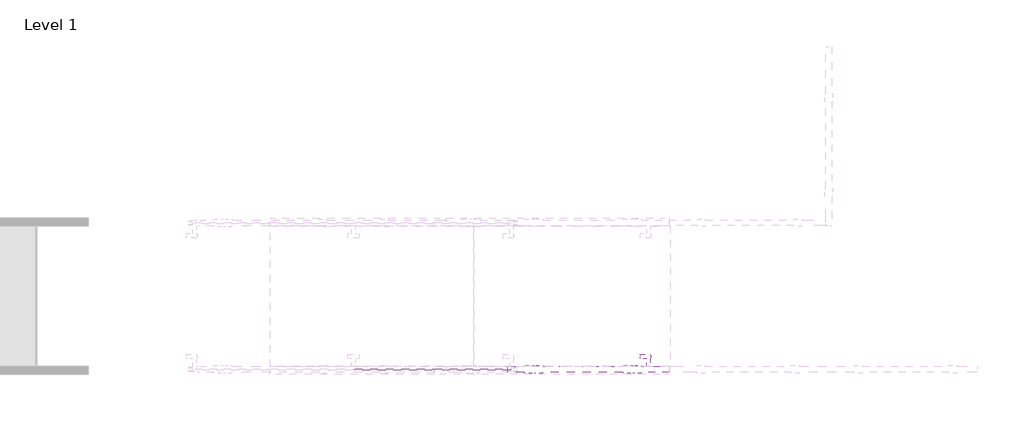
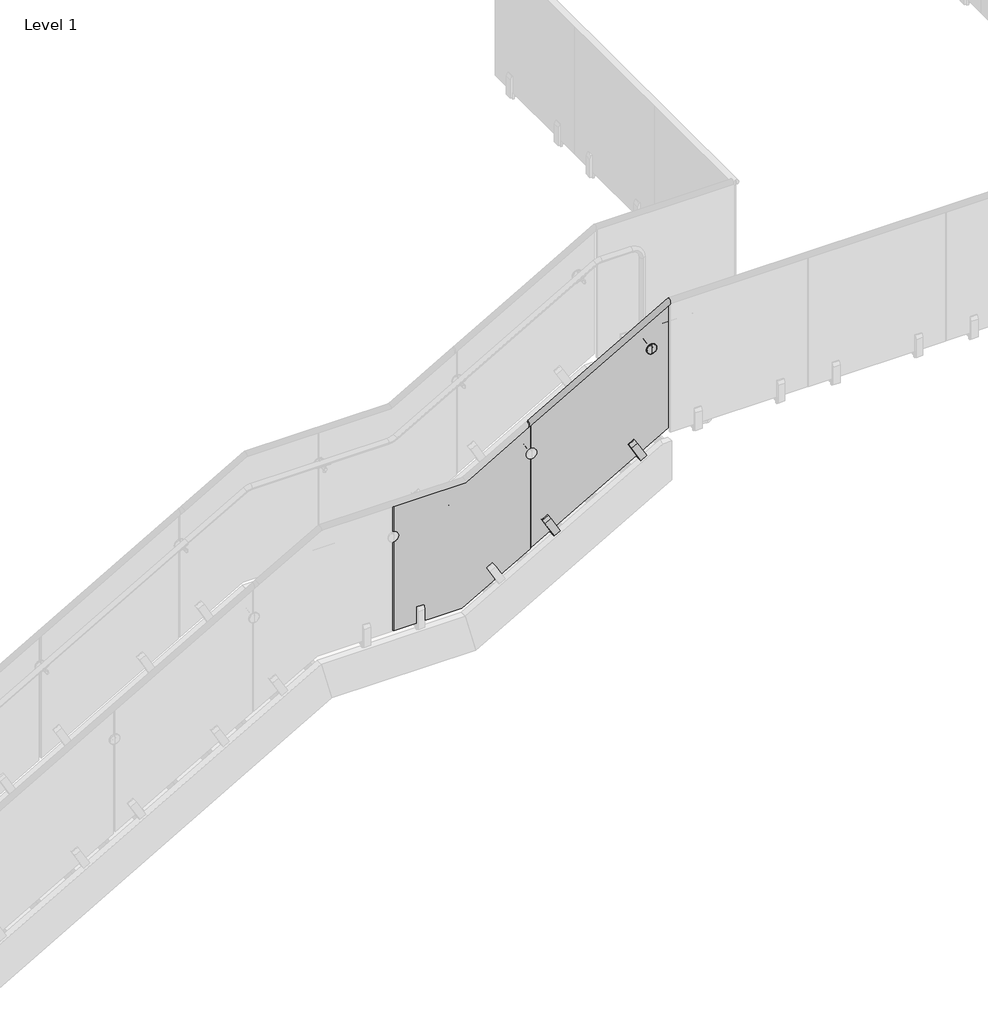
# One storey, part 5 of 17: 2 railings.
"""IFC4 building model written with IfcOpenShell, lengths in millimetres."""

from ifc_helpers import new_model, si_unit, point, frame, frame_2d, origin, place, context, project, spatial, polyline, circle_curve, ellipse_curve, trimmed, segment, composite_curve, outline, extrude, transform, mapped, element, save
from ifc_brep_helpers import plane_surface, cylinder_surface, revolved_surface, advanced_brep
from components import standard_glass_ea82125f

model = new_model("IFC4")

# Units and contexts
model_context = context("Model", 3, world=origin())
ifc_project = project(units=[si_unit("LENGTHUNIT", "METRE", prefix="MILLI")], contexts=[model_context])

# Site, building, storey
site = spatial("IfcSite", under=ifc_project)
building = spatial("IfcBuilding", under=site)
storey = spatial("IfcBuildingStorey", under=building, Name="Level 1", Elevation=0.0)

# Railings
placement = place(None, origin())
element("IfcRailing", 1, ObjectType="VIVA-VISIO-Glass-Steel Surface Mount-Stair_Upper", at=placement, inside=storey, context=model_context, shape_type="SolidModel", body=[
    advanced_brep(
    [(29401.8862561, -22056.3417549, 3506.1985758), (29401.8862561, -22033.4070565, 3506.2634319), (29401.8862561, -22038.5617549, 3509.2136981), (29401.8862561, -22038.5617549, 3537.3859225), (29401.8862561, -22051.2617549, 3537.3859225), (29401.8862561, -22051.2617549, 3509.1240236), (30452.8112561, -22056.3417549, 4106.7271473), (30452.8112561, -22051.2617549, 4109.6525951), (30452.8112561, -22051.2617549, 4137.9144939), (30452.8112561, -22038.5617549, 4137.9144939), (30452.8112561, -22038.5617549, 4109.7422695), (30452.8112561, -22033.4070565, 4106.7920034)],
    [
        (0, 1, ellipse_curve(frame((29401.8862561, -22044.9117549, 3523.7512627), z_axis=(-1.0, 0.0, 0.0), x_axis=(0.0, 0.0, -1.0)), 21.9408586, 19.05)),
        (1, 2, ellipse_curve(frame((29401.8862561, -22035.3479446, 3509.2136981), z_axis=(-1.0, 0.0, 0.0), x_axis=(0.0, 0.0, -1.0)), 3.7015096, 3.2138103)),
        (2, 3),
        (3, 4),
        (4, 5),
        (5, 0, ellipse_curve(frame((29401.8862561, -22054.4367549, 3509.1240236), z_axis=(-1.0, 0.0, 0.0), x_axis=(0.0, 0.0, -1.0)), 3.6568098, 3.175)),
        (6, 7, ellipse_curve(frame((30452.8112561, -22054.4367549, 4109.6525951), z_axis=(1.0, 0.0, 0.0), x_axis=(0.0, 0.0, -1.0)), 3.6568098, 3.175)),
        (7, 8),
        (8, 9),
        (9, 10),
        (10, 11, ellipse_curve(frame((30452.8112561, -22035.3479446, 4109.7422695), z_axis=(1.0, 0.0, 0.0), x_axis=(0.0, 0.0, -1.0)), 3.7015096, 3.2138103)),
        (11, 6, ellipse_curve(frame((30452.8112561, -22044.9117549, 4124.2798341), z_axis=(1.0, 0.0, 0.0), x_axis=(0.0, 0.0, -1.0)), 21.9408586, 19.05)),
        (0, 6),
        (11, 1),
        (10, 2),
        (9, 3),
        (8, 4),
        (7, 5),
    ],
    [
        plane_surface(frame((29401.8862561, -22044.9117549, 3539.6714286), z_axis=(-1.0, 0.0, 0.0), x_axis=(0.0, 1.0, 0.0))),
        plane_surface(frame((30452.8112561, -22044.9117549, 4140.2), z_axis=(1.0, 0.0, 0.0), x_axis=(0.0, 1.0, 0.0))),
        cylinder_surface(frame((29408.7441737, -22044.9117549, 3527.6700728), z_axis=(-0.8682431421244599, 0.0, -0.4961389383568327), x_axis=(0.0, 1.0, 0.0)), 19.05),
        cylinder_surface(frame((29415.0065092, -22035.3479446, 3516.7109856), z_axis=(-0.8682431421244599, 0.0, -0.4961389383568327), x_axis=(0.0, 1.0, 0.0)), 3.2138103),
        plane_surface(frame((29401.8862561, -22038.5617549, 3509.2136981), z_axis=(0.0, -1.0, 0.0), x_axis=(0.8682431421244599, 0.0, 0.49613893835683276))),
        plane_surface(frame((29401.8862561, -22038.5617549, 3537.3859225), z_axis=(0.49613893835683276, 0.0, -0.8682431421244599), x_axis=(0.8682431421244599, 0.0, 0.49613893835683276))),
        plane_surface(frame((29401.8862561, -22051.2617549, 3537.3859225), z_axis=(0.0, 1.0, 0.0), x_axis=(0.8682431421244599, 0.0, 0.49613893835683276))),
        cylinder_surface(frame((29415.0451382, -22054.4367549, 3516.6433849), z_axis=(-0.8682431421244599, 0.0, -0.4961389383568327), x_axis=(0.0, 1.0, 0.0)), 3.175),
    ],
    [
        (0, [[1, 2, 3, 4, 5, 6]]),
        (1, [[7, 8, 9, 10, 11, 12]]),
        (2, [[-1, 13, -12, 14]]),
        (3, [[-2, -14, -11, 15]]),
        (4, [[-3, -15, -10, 16]]),
        (5, [[-4, -16, -9, 17]]),
        (6, [[-5, -17, -8, 18]]),
        (7, [[-6, -18, -7, -13]]),
    ],
),
    extrude(outline(polyline([(0.0, 12.7), (50.8, 12.7), (50.8, 0.0), (0.0, 0.0), (0.0, 12.7)])), frame((30233.2728803, -22051.2617549, 2957.0138959), z_axis=(-0.49613893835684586, 0.0, 0.8682431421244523), x_axis=(0.8682431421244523, 0.0, 0.49613893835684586)), (0.0, 0.0, 1.0), 50.8),
    extrude(outline(polyline([(0.0, 0.0), (0.0, 19.05), (166.6875, 19.05), (166.6875, 11.1125), (139.7, 0.0), (0.0, 0.0)])), frame((30226.1842952, -22019.5117549, 2969.4189198), z_axis=(0.8682431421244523, 0.0, 0.49613893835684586), x_axis=(-0.49613893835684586, 0.0, 0.8682431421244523)), (0.0, 0.0, 1.0), 50.8),
    extrude(outline(polyline([(0.0, 50.8), (139.7, 50.8), (166.6875, 39.6875), (166.6875, 31.75), (0.0, 31.75), (0.0, 50.8)])), frame((30226.1842952, -22019.5117549, 2969.4189198), z_axis=(0.8682431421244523, 0.0, 0.49613893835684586), x_axis=(-0.49613893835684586, 0.0, 0.8682431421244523)), (0.0, 0.0, 1.0), 50.8),
    extrude(outline(polyline([(4132.9732161, 30443.6693027), (3552.4017875, 29427.6693027), (2559.9501106, 29427.6693027), (3140.5215392, 30443.6693027), (4132.9732161, 30443.6693027)])), frame((0.0, -22051.2617549, 0.0), z_axis=(0.0, 1.0, 0.0), x_axis=(0.0, 0.0, 1.0)), (0.0, 0.0, 1.0), 12.7),
    extrude(outline(polyline([(0.0, 12.7), (50.8, 12.7), (50.8, 0.0), (0.0, 0.0), (0.0, 12.7)])), frame((29593.1928803, -22051.2617549, 2591.2538959), z_axis=(-0.49613893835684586, 0.0, 0.8682431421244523), x_axis=(0.8682431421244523, 0.0, 0.49613893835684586)), (0.0, 0.0, 1.0), 50.8),
    extrude(outline(polyline([(0.0, 0.0), (0.0, 19.05), (166.6875, 19.05), (166.6875, 11.1125), (139.7, 0.0), (0.0, 0.0)])), frame((29586.1042952, -22019.5117549, 2603.6589198), z_axis=(0.8682431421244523, 0.0, 0.49613893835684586), x_axis=(-0.49613893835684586, 0.0, 0.8682431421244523)), (0.0, 0.0, 1.0), 50.8),
    extrude(outline(polyline([(0.0, 50.8), (139.7, 50.8), (166.6875, 39.6875), (166.6875, 31.75), (0.0, 31.75), (0.0, 50.8)])), frame((29586.1042952, -22019.5117549, 2603.6589198), z_axis=(0.8682431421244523, 0.0, 0.49613893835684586), x_axis=(-0.49613893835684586, 0.0, 0.8682431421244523)), (0.0, 0.0, 1.0), 50.8),
    extrude(outline(composite_curve([segment(trimmed(circle_curve(frame_2d((0.0, -7.0)), 7.0), [point((0.0, -14.0))], [point((0.0, 0.0))], False, "CARTESIAN"), True, "CONTINUOUS"), segment(trimmed(circle_curve(frame_2d((0.0, -7.0)), 7.0), [point((0.0, 0.0))], [point((0.0, -14.0))], False, "CARTESIAN"), True, "CONTINUOUS")], self_intersect=False)), frame((30329.0824492, -21969.6918939, 3782.7471988), z_axis=(-0.5018548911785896, 0.0, 0.8649518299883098), x_axis=(-0.8649518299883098, 0.0, -0.5018548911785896)), (0.0, 0.0, 1.0), 52.8378352),
    extrude(outline(composite_curve([segment(trimmed(circle_curve(frame_2d((18.6575252, 0.3952033)), 19.05), [point((5.2466064, 13.9247915))], [point((5.2466064, -13.134385))], True, "CARTESIAN"), True, "CONTINUOUS"), segment(polyline([(5.2466064, -13.134385), (4.2292194, -14.1607746)]), True, "CONTINUOUS"), segment(trimmed(circle_curve(frame_2d((3.1638975, -13.1047967)), 1.5), [point((4.2292194, -14.1607746))], [point((2.0329757, -14.0901982))], False, "CARTESIAN"), True, "CONTINUOUS"), segment(trimmed(circle_curve(frame_2d((18.6575252, 0.3952033)), 22.05), [point((2.0329757, -14.0901982))], [point((2.0329757, 14.8806047))], False, "CARTESIAN"), True, "CONTINUOUS"), segment(trimmed(circle_curve(frame_2d((3.1638975, 13.8952033)), 1.5), [point((2.0329757, 14.8806047))], [point((4.2292194, 14.9511811))], False, "CARTESIAN"), True, "CONTINUOUS"), segment(polyline([(4.2292194, 14.9511811), (5.2466064, 13.9247915)]), True, "CONTINUOUS")], self_intersect=False)), frame((30264.6146672, -21960.9646616, 3810.4883816), z_axis=(0.8664916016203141, 0.0, 0.49919165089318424), x_axis=(-0.49919165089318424, 0.0, 0.8664916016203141)), (0.0, 0.0, 1.0), 74.5229187),
    extrude(outline(composite_curve([segment(trimmed(circle_curve(frame_2d((3804.8837143, 30316.2862561)), 11.0132813), [point((3804.8837143, 30327.2995373))], [point((3804.8837143, 30305.2729748))], False, "CARTESIAN"), True, "CONTINUOUS"), segment(trimmed(circle_curve(frame_2d((3804.8837143, 30316.2862561)), 11.0132813), [point((3804.8837143, 30305.2729748))], [point((3804.8837143, 30327.2995373))], False, "CARTESIAN"), True, "CONTINUOUS")], self_intersect=False)), frame((0.0, -22028.9375361, 0.0), z_axis=(0.0, 1.0, 0.0), x_axis=(0.0, 0.0, 1.0)), (0.0, 0.0, 1.0), 79.2757812),
    advanced_brep(
    [(30316.2862561, -22060.8859736, 3804.8837143), (30316.2862561, -22060.8859736, 3840.9993393), (30316.2862561, -22060.8859736, 3768.7680893), (30316.2862561, -22028.9375361, 3768.7680893), (30316.2862561, -22028.9375361, 3840.9993393), (30316.2862561, -22028.9375361, 3804.8837143), (30316.2862561, -22030.9219111, 3766.7837143), (30316.2862561, -22030.9219111, 3842.9837143), (30316.2862561, -22038.5617549, 3766.7837143), (30316.2862561, -22038.5617549, 3842.9837143), (30316.2862561, -22038.5617549, 3792.1837143), (30316.2862561, -22038.5617549, 3817.5837143), (30316.2862561, -22051.2617549, 3792.1837143), (30316.2862561, -22051.2617549, 3817.5837143), (30316.2862561, -22051.2617549, 3766.7837143), (30316.2862561, -22051.2617549, 3842.9837143), (30316.2862561, -22058.9015986, 3766.7837143), (30316.2862561, -22058.9015986, 3842.9837143)],
    [
        (0, 1),
        (1, 2, circle_curve(frame((30316.2862561, -22060.8859736, 3804.8837143), z_axis=(0.0, -1.0, 0.0), x_axis=(0.0, 0.0, 1.0)), 36.115625)),
        (2, 0),
        (2, 1, circle_curve(frame((30316.2862561, -22060.8859736, 3804.8837143), z_axis=(0.0, -1.0, 0.0), x_axis=(0.0, 0.0, 1.0)), 36.115625)),
        (3, 4, circle_curve(frame((30316.2862561, -22028.9375361, 3804.8837143), z_axis=(0.0, 1.0, 0.0), x_axis=(0.0, 0.0, 1.0)), 36.115625)),
        (4, 5),
        (5, 3),
        (4, 3, circle_curve(frame((30316.2862561, -22028.9375361, 3804.8837143), z_axis=(0.0, 1.0, 0.0), x_axis=(0.0, 0.0, 1.0)), 36.115625)),
        (6, 7, circle_curve(frame((30316.2862561, -22030.9219111, 3804.8837143), z_axis=(0.0, 1.0, 0.0), x_axis=(0.0, 0.0, 1.0)), 38.1)),
        (7, 4),
        (3, 6),
        (7, 6, circle_curve(frame((30316.2862561, -22030.9219111, 3804.8837143), z_axis=(0.0, 1.0, 0.0), x_axis=(0.0, 0.0, 1.0)), 38.1)),
        (8, 9, circle_curve(frame((30316.2862561, -22038.5617549, 3804.8837143), z_axis=(0.0, 1.0, 0.0), x_axis=(0.0, 0.0, 1.0)), 38.1)),
        (9, 7),
        (6, 8),
        (9, 8, circle_curve(frame((30316.2862561, -22038.5617549, 3804.8837143), z_axis=(0.0, 1.0, 0.0), x_axis=(0.0, 0.0, 1.0)), 38.1)),
        (10, 11, circle_curve(frame((30316.2862561, -22038.5617549, 3804.8837143), z_axis=(0.0, 1.0, 0.0), x_axis=(0.0, 0.0, 1.0)), 12.7)),
        (11, 9),
        (8, 10),
        (11, 10, circle_curve(frame((30316.2862561, -22038.5617549, 3804.8837143), z_axis=(0.0, 1.0, 0.0), x_axis=(0.0, 0.0, 1.0)), 12.7)),
        (12, 13, circle_curve(frame((30316.2862561, -22051.2617549, 3804.8837143), z_axis=(0.0, 1.0, 0.0), x_axis=(0.0, 0.0, 1.0)), 12.7)),
        (13, 11),
        (10, 12),
        (13, 12, circle_curve(frame((30316.2862561, -22051.2617549, 3804.8837143), z_axis=(0.0, 1.0, 0.0), x_axis=(0.0, 0.0, 1.0)), 12.7)),
        (14, 15, circle_curve(frame((30316.2862561, -22051.2617549, 3804.8837143), z_axis=(0.0, 1.0, 0.0), x_axis=(0.0, 0.0, 1.0)), 38.1)),
        (15, 13),
        (12, 14),
        (15, 14, circle_curve(frame((30316.2862561, -22051.2617549, 3804.8837143), z_axis=(0.0, 1.0, 0.0), x_axis=(0.0, 0.0, 1.0)), 38.1)),
        (16, 17, circle_curve(frame((30316.2862561, -22058.9015986, 3804.8837143), z_axis=(0.0, 1.0, 0.0), x_axis=(0.0, 0.0, 1.0)), 38.1)),
        (17, 15),
        (14, 16),
        (17, 16, circle_curve(frame((30316.2862561, -22058.9015986, 3804.8837143), z_axis=(0.0, 1.0, 0.0), x_axis=(0.0, 0.0, 1.0)), 38.1)),
        (1, 17),
        (16, 2),
    ],
    [
        plane_surface(frame((30316.2862561, -22060.8859736, 3804.8837143), z_axis=(0.0, -1.0, 0.0), x_axis=(0.0, 0.0, 1.0))),
        plane_surface(frame((30316.2862561, -22028.9375361, 3804.8837143), z_axis=(0.0, 1.0, 0.0), x_axis=(0.0, 0.0, 1.0))),
        revolved_surface(polyline([(30316.2862561, -22028.9375361, 3840.9993393), (30316.2862561, -22030.9219111, 3842.9837143)]), (30316.2862561, -22097.0015986, 3804.8837143), (0.0, -1.0, 0.0)),
        cylinder_surface(frame((30316.2862561, -22097.0015986, 3804.8837143), z_axis=(0.0, -1.0, 0.0), x_axis=(0.0, 0.0, 1.0)), 38.1),
        plane_surface(frame((30316.2862561, -22038.5617549, 3804.8837143), z_axis=(0.0, -1.0, 0.0), x_axis=(0.0, 0.0, 1.0))),
        cylinder_surface(frame((30316.2862561, -22097.0015986, 3804.8837143), z_axis=(0.0, -1.0, 0.0), x_axis=(0.0, 0.0, 1.0)), 12.7),
        plane_surface(frame((30316.2862561, -22051.2617549, 3804.8837143), z_axis=(0.0, 1.0, 0.0), x_axis=(0.0, 0.0, 1.0))),
        revolved_surface(polyline([(30316.2862561, -22058.9015986, 3842.9837143), (30316.2862561, -22060.8859736, 3840.9993393)]), (30316.2862561, -22097.0015986, 3804.8837143), (0.0, -1.0, 0.0)),
    ],
    [
        (0, [[1, 2, 3]]),
        (0, [[-3, 4, -1]]),
        (1, [[5, 6, 7]]),
        (1, [[8, -7, -6]]),
        (2, [[9, 10, -5, 11]]),
        (2, [[12, -11, -8, -10]]),
        (3, [[13, 14, -9, 15]]),
        (3, [[16, -15, -12, -14]]),
        (4, [[17, 18, -13, 19]]),
        (4, [[20, -19, -16, -18]]),
        (5, [[21, 22, -17, 23]]),
        (5, [[24, -23, -20, -22]]),
        (6, [[25, 26, -21, 27]]),
        (6, [[28, -27, -24, -26]]),
        (3, [[29, 30, -25, 31]]),
        (3, [[32, -31, -28, -30]]),
        (7, [[-2, 33, -29, 34]]),
        (7, [[-4, -34, -32, -33]]),
    ],
),
])
standard_glass_shape = standard_glass_ea82125f(model_context)
element("IfcRailing", 2, ObjectType="Baluster-Landing-Panel-VIVA-VISIO-Upper : Standard_Glass", at=placement, inside=storey, context=model_context, shape_type="MappedRepresentation", body=[
    mapped(standard_glass_shape, transform((29420.9362561, -22082.8694841, 2177.1428571), x_axis=(0.0, 1.0, 0.0), y_axis=(-1.0, 0.0, 0.0), z_axis=(0.0, 0.0, 1.0))),
])

save(model, "model.ifc")
